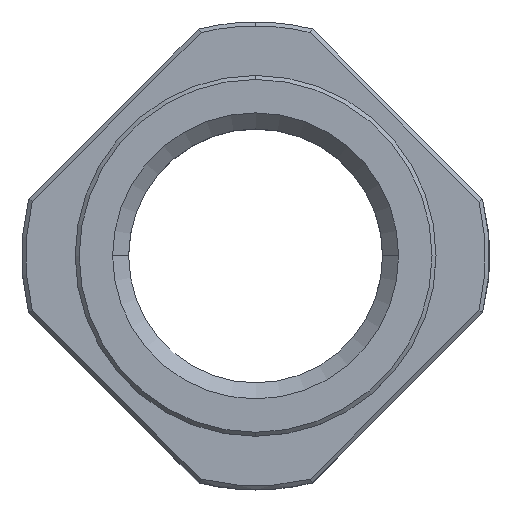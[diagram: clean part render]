
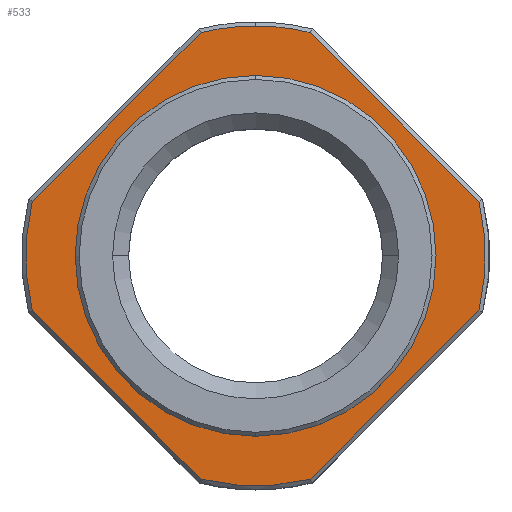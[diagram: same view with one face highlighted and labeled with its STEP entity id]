
A CAD part, top view. The second image highlights one B-rep face of the part: STEP entity #533.
In plain terms, the highlighted planar face has unit normal (0, 0, 1).
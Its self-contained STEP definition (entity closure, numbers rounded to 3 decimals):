
#59 = VERTEX_POINT ( 'NONE', #1428 ) ;
#79 = VERTEX_POINT ( 'NONE', #1411 ) ;
#171 = ORIENTED_EDGE ( 'NONE', *, *, #622, .T. ) ;
#174 = ORIENTED_EDGE ( 'NONE', *, *, #623, .T. ) ;
#175 = ORIENTED_EDGE ( 'NONE', *, *, #621, .T. ) ;
#176 = ORIENTED_EDGE ( 'NONE', *, *, #624, .T. ) ;
#177 = ORIENTED_EDGE ( 'NONE', *, *, #625, .T. ) ;
#178 = ORIENTED_EDGE ( 'NONE', *, *, #626, .T. ) ;
#179 = ORIENTED_EDGE ( 'NONE', *, *, #604, .T. ) ;
#180 = ORIENTED_EDGE ( 'NONE', *, *, #627, .T. ) ;
#182 = ORIENTED_EDGE ( 'NONE', *, *, #628, .T. ) ;
#183 = ORIENTED_EDGE ( 'NONE', *, *, #629, .F. ) ;
#184 = ORIENTED_EDGE ( 'NONE', *, *, #582, .F. ) ;
#283 = VECTOR ( 'NONE', #697, 1000. ) ;
#284 = VECTOR ( 'NONE', #700, 1000. ) ;
#286 = AXIS2_PLACEMENT_3D ( 'NONE', #676, #677, #678 ) ;
#291 = VECTOR ( 'NONE', #732, 1000. ) ;
#292 = VECTOR ( 'NONE', #822, 1000. ) ;
#324 = AXIS2_PLACEMENT_3D ( 'NONE', #691, #693, #692 ) ;
#326 = AXIS2_PLACEMENT_3D ( 'NONE', #694, #702, #701 ) ;
#333 = AXIS2_PLACEMENT_3D ( 'NONE', #852, #836, #833 ) ;
#376 = AXIS2_PLACEMENT_3D ( 'NONE', #1170, #1169, #1168 ) ;
#381 = FACE_OUTER_BOUND ( 'NONE', #1495, .T. ) ;
#386 = AXIS2_PLACEMENT_3D ( 'NONE', #703, #716, #837 ) ;
#437 = FACE_BOUND ( 'NONE', #1498, .T. ) ;
#453 = CIRCLE ( 'NONE', #286, 13.5 ) ;
#454 = CIRCLE ( 'NONE', #1581, 17.2 ) ;
#455 = CIRCLE ( 'NONE', #386, 17.2 ) ;
#456 = CIRCLE ( 'NONE', #326, 17.2 ) ;
#457 = CIRCLE ( 'NONE', #324, 17.2 ) ;
#499 = CIRCLE ( 'NONE', #1580, 17.2 ) ;
#505 = CIRCLE ( 'NONE', #333, 13.5 ) ;
#533 = ADVANCED_FACE ( 'NONE', ( #381, #437 ), #1171, .F. ) ;
#582 = EDGE_CURVE ( 'NONE', #1525, #1527, #505, .T. ) ;
#604 = EDGE_CURVE ( 'NONE', #59, #79, #499, .T. ) ;
#621 = EDGE_CURVE ( 'NONE', #1509, #1506, #457, .T. ) ;
#622 = EDGE_CURVE ( 'NONE', #1513, #1509, #695, .T. ) ;
#623 = EDGE_CURVE ( 'NONE', #1506, #1508, #698, .T. ) ;
#624 = EDGE_CURVE ( 'NONE', #1508, #1514, #456, .T. ) ;
#625 = EDGE_CURVE ( 'NONE', #1514, #1524, #704, .T. ) ;
#626 = EDGE_CURVE ( 'NONE', #1524, #59, #455, .T. ) ;
#627 = EDGE_CURVE ( 'NONE', #79, #1515, #832, .T. ) ;
#628 = EDGE_CURVE ( 'NONE', #1515, #1513, #454, .T. ) ;
#629 = EDGE_CURVE ( 'NONE', #1527, #1525, #453, .T. ) ;
#675 = DIRECTION ( 'NONE',  ( 0., 1., 0. ) ) ;
#676 = CARTESIAN_POINT ( 'NONE',  ( 0., 0., 10. ) ) ;
#677 = DIRECTION ( 'NONE',  ( 0., 0., 1. ) ) ;
#678 = DIRECTION ( 'NONE',  ( 0., -1., 0. ) ) ;
#691 = CARTESIAN_POINT ( 'NONE',  ( 0., 0., 10. ) ) ;
#692 = DIRECTION ( 'NONE',  ( 0., 1., 0. ) ) ;
#693 = DIRECTION ( 'NONE',  ( 0., 0., 1. ) ) ;
#694 = CARTESIAN_POINT ( 'NONE',  ( 0., 0., 10. ) ) ;
#695 = LINE ( 'NONE', #696, #283 ) ;
#696 = CARTESIAN_POINT ( 'NONE',  ( -4.021, -16.768, 10. ) ) ;
#697 = DIRECTION ( 'NONE',  ( 0.707, -0.707, 0. ) ) ;
#698 = LINE ( 'NONE', #699, #284 ) ;
#699 = CARTESIAN_POINT ( 'NONE',  ( 16.768, -4.021, 10. ) ) ;
#700 = DIRECTION ( 'NONE',  ( 0.707, 0.707, 0. ) ) ;
#701 = DIRECTION ( 'NONE',  ( 0., 1., 0. ) ) ;
#702 = DIRECTION ( 'NONE',  ( 0., 0., 1. ) ) ;
#703 = CARTESIAN_POINT ( 'NONE',  ( 0., 0., 10. ) ) ;
#704 = LINE ( 'NONE', #848, #291 ) ;
#706 = DIRECTION ( 'NONE',  ( 0., 0., 1. ) ) ;
#712 = CARTESIAN_POINT ( 'NONE',  ( -16.768, 4.021, 10. ) ) ;
#716 = DIRECTION ( 'NONE',  ( 0., 0., 1. ) ) ;
#724 = CARTESIAN_POINT ( 'NONE',  ( 0., 0., 10. ) ) ;
#732 = DIRECTION ( 'NONE',  ( -0.707, 0.707, 0. ) ) ;
#822 = DIRECTION ( 'NONE',  ( -0.707, -0.707, 0. ) ) ;
#827 = DIRECTION ( 'NONE',  ( 0., 1., 0. ) ) ;
#832 = LINE ( 'NONE', #712, #292 ) ;
#833 = DIRECTION ( 'NONE',  ( 0., -1., 0. ) ) ;
#834 = DIRECTION ( 'NONE',  ( 0., 0., 1. ) ) ;
#836 = DIRECTION ( 'NONE',  ( 0., 0., 1. ) ) ;
#837 = DIRECTION ( 'NONE',  ( 0., 1., 0. ) ) ;
#843 = CARTESIAN_POINT ( 'NONE',  ( 0., 0., 10. ) ) ;
#848 = CARTESIAN_POINT ( 'NONE',  ( 4.021, 16.768, 10. ) ) ;
#852 = CARTESIAN_POINT ( 'NONE',  ( 0., 0., 10. ) ) ;
#1168 = DIRECTION ( 'NONE',  ( 0., 1., 0. ) ) ;
#1169 = DIRECTION ( 'NONE',  ( 0., 0., -1. ) ) ;
#1170 = CARTESIAN_POINT ( 'NONE',  ( 0., 17.5, 10. ) ) ;
#1171 = PLANE ( 'NONE',  #376 ) ;
#1411 = CARTESIAN_POINT ( 'NONE',  ( -4.08, 16.709, 10. ) ) ;
#1428 = CARTESIAN_POINT ( 'NONE',  ( 0., 17.2, 10. ) ) ;
#1495 = EDGE_LOOP ( 'NONE', ( #171, #175, #174, #176, #177, #178, #179, #180, #182 ) ) ;
#1498 = EDGE_LOOP ( 'NONE', ( #184, #183 ) ) ;
#1506 = VERTEX_POINT ( 'NONE', #1590 ) ;
#1508 = VERTEX_POINT ( 'NONE', #1688 ) ;
#1509 = VERTEX_POINT ( 'NONE', #1689 ) ;
#1513 = VERTEX_POINT ( 'NONE', #1714 ) ;
#1514 = VERTEX_POINT ( 'NONE', #1715 ) ;
#1515 = VERTEX_POINT ( 'NONE', #1716 ) ;
#1524 = VERTEX_POINT ( 'NONE', #1726 ) ;
#1525 = VERTEX_POINT ( 'NONE', #1727 ) ;
#1527 = VERTEX_POINT ( 'NONE', #1728 ) ;
#1580 = AXIS2_PLACEMENT_3D ( 'NONE', #843, #834, #827 ) ;
#1581 = AXIS2_PLACEMENT_3D ( 'NONE', #724, #706, #675 ) ;
#1590 = CARTESIAN_POINT ( 'NONE',  ( 4.08, -16.709, 10. ) ) ;
#1688 = CARTESIAN_POINT ( 'NONE',  ( 16.709, -4.08, 10. ) ) ;
#1689 = CARTESIAN_POINT ( 'NONE',  ( -4.08, -16.709, 10. ) ) ;
#1714 = CARTESIAN_POINT ( 'NONE',  ( -16.709, -4.08, 10. ) ) ;
#1715 = CARTESIAN_POINT ( 'NONE',  ( 16.709, 4.08, 10. ) ) ;
#1716 = CARTESIAN_POINT ( 'NONE',  ( -16.709, 4.08, 10. ) ) ;
#1726 = CARTESIAN_POINT ( 'NONE',  ( 4.08, 16.709, 10. ) ) ;
#1727 = CARTESIAN_POINT ( 'NONE',  ( 0., -13.5, 10. ) ) ;
#1728 = CARTESIAN_POINT ( 'NONE',  ( 0., 13.5, 10. ) ) ;
